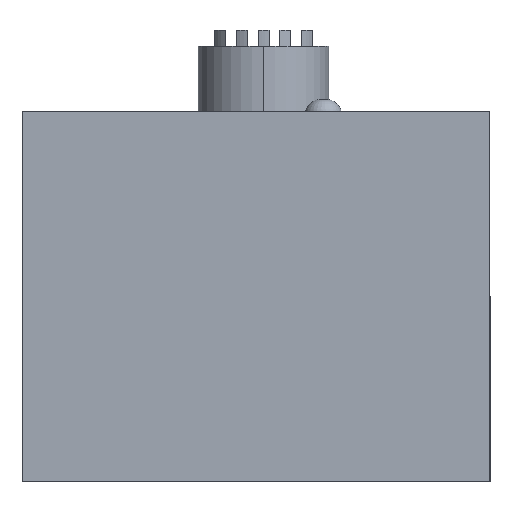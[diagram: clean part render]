
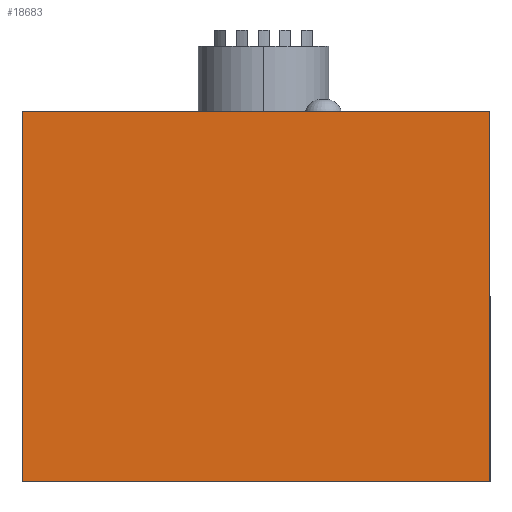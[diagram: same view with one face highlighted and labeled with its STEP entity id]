
A CAD part, top view. The second image highlights one B-rep face of the part: STEP entity #18683.
In plain terms, the highlighted planar face has unit normal (0, 0, 1).
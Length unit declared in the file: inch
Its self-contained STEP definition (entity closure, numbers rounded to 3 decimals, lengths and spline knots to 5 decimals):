
#288 = FACE_OUTER_BOUND ( 'NONE', #7869, .T. ) ;
#503 = ORIENTED_EDGE ( 'NONE', *, *, #11356, .T. ) ;
#765 = DIRECTION ( 'NONE',  ( -1., 0., 0. ) ) ;
#1318 = VECTOR ( 'NONE', #7546, 39.37008 ) ;
#3812 = LINE ( 'NONE', #22025, #22507 ) ;
#4382 = DIRECTION ( 'NONE',  ( -1., 0., 0. ) ) ;
#4595 = CARTESIAN_POINT ( 'NONE',  ( 2.571, -3., 3.063 ) ) ;
#5146 = ORIENTED_EDGE ( 'NONE', *, *, #25831, .T. ) ;
#5760 = CARTESIAN_POINT ( 'NONE',  ( -2.804, -3., 3.063 ) ) ;
#6264 = ORIENTED_EDGE ( 'NONE', *, *, #9067, .T. ) ;
#7417 = DIRECTION ( 'NONE',  ( 0., 1., 0. ) ) ;
#7546 = DIRECTION ( 'NONE',  ( 0., -1., 0. ) ) ;
#7869 = EDGE_LOOP ( 'NONE', ( #5146, #503, #8375, #6264 ) ) ;
#8322 = PLANE ( 'NONE',  #13065 ) ;
#8375 = ORIENTED_EDGE ( 'NONE', *, *, #18487, .T. ) ;
#9067 = EDGE_CURVE ( 'NONE', #23522, #20097, #23955, .T. ) ;
#9719 = CARTESIAN_POINT ( 'NONE',  ( -2.804, -3., 3.063 ) ) ;
#11042 = CARTESIAN_POINT ( 'NONE',  ( 2.571, 1.25, 3.063 ) ) ;
#11356 = EDGE_CURVE ( 'NONE', #16996, #17185, #3812, .T. ) ;
#13065 = AXIS2_PLACEMENT_3D ( 'NONE', #20601, #14661, #4382 ) ;
#13890 = LINE ( 'NONE', #25851, #19081 ) ;
#14661 = DIRECTION ( 'NONE',  ( 0., 0., -1. ) ) ;
#16863 = LINE ( 'NONE', #9719, #1318 ) ;
#16996 = VERTEX_POINT ( 'NONE', #5760 ) ;
#17185 = VERTEX_POINT ( 'NONE', #4595 ) ;
#17972 = DIRECTION ( 'NONE',  ( 1., 0., 0. ) ) ;
#18487 = EDGE_CURVE ( 'NONE', #17185, #23522, #13890, .T. ) ;
#18683 = ADVANCED_FACE ( 'NONE', ( #288 ), #8322, .F. ) ;
#19081 = VECTOR ( 'NONE', #7417, 39.37008 ) ;
#20097 = VERTEX_POINT ( 'NONE', #20310 ) ;
#20310 = CARTESIAN_POINT ( 'NONE',  ( -2.804, 1.25, 3.063 ) ) ;
#20601 = CARTESIAN_POINT ( 'NONE',  ( -2.804, 1.25, 3.063 ) ) ;
#20718 = VECTOR ( 'NONE', #765, 39.37008 ) ;
#21640 = CARTESIAN_POINT ( 'NONE',  ( -2.804, 1.25, 3.063 ) ) ;
#22025 = CARTESIAN_POINT ( 'NONE',  ( -2.804, -3., 3.063 ) ) ;
#22507 = VECTOR ( 'NONE', #17972, 39.37008 ) ;
#23522 = VERTEX_POINT ( 'NONE', #11042 ) ;
#23955 = LINE ( 'NONE', #21640, #20718 ) ;
#25831 = EDGE_CURVE ( 'NONE', #20097, #16996, #16863, .T. ) ;
#25851 = CARTESIAN_POINT ( 'NONE',  ( 2.571, -3., 3.063 ) ) ;
